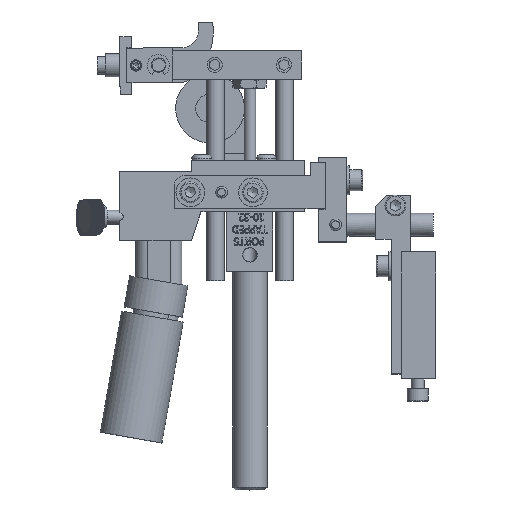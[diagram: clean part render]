
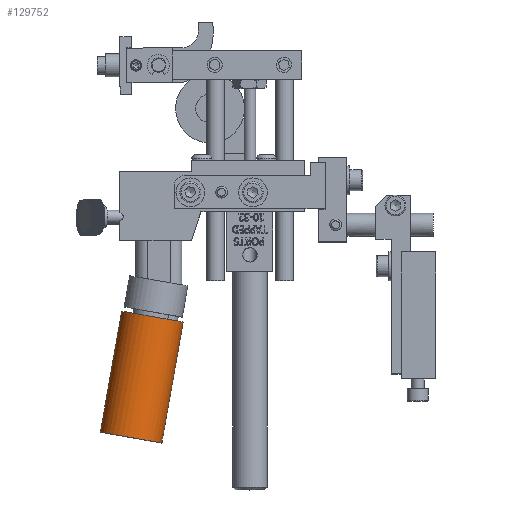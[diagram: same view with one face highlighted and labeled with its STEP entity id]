
A CAD part, top view. The second image highlights one B-rep face of the part: STEP entity #129752.
In plain terms, the highlighted cylindrical face has radius 8.636 mm (diameter 17.272 mm), a full revolution.
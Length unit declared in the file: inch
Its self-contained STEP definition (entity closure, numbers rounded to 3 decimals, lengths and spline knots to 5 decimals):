
#129705=CARTESIAN_POINT('',(-0.93754,-4.07293,-0.55726));
#129706=VERTEX_POINT('',#129705);
#129707=CARTESIAN_POINT('',(-0.8449,-4.08927,-0.23053));
#129708=DIRECTION('',(-0.174,-0.985,0.));
#129709=DIRECTION('',(0.272,-0.048,0.961));
#129710=AXIS2_PLACEMENT_3D('',#129707,#129708,#129709);
#129711=CIRCLE('',#129710,0.34);
#129712=EDGE_CURVE('',#129706,#129706,#129711,.T.);
#129733=CARTESIAN_POINT('',(-0.8449,-4.08927,-0.23053));
#129734=DIRECTION('',(0.174,0.985,0.));
#129735=DIRECTION('',(0.272,-0.048,0.961));
#129736=AXIS2_PLACEMENT_3D('',#129733,#129734,#129735);
#129737=CYLINDRICAL_SURFACE('',#129736,0.34);
#129738=CARTESIAN_POINT('',(-0.70572,-2.75821,-0.55725));
#129739=VERTEX_POINT('',#129738);
#129740=CARTESIAN_POINT('',(-0.61308,-2.77455,-0.23053));
#129741=DIRECTION('',(-0.174,-0.985,0.));
#129742=DIRECTION('',(0.272,-0.048,0.961));
#129743=AXIS2_PLACEMENT_3D('',#129740,#129741,#129742);
#129744=CIRCLE('',#129743,0.34);
#129745=EDGE_CURVE('',#129739,#129739,#129744,.T.);
#129746=ORIENTED_EDGE('',*,*,#129745,.T.);
#129747=EDGE_LOOP('',(#129746));
#129748=FACE_OUTER_BOUND('',#129747,.T.);
#129749=ORIENTED_EDGE('',*,*,#129712,.F.);
#129750=EDGE_LOOP('',(#129749));
#129751=FACE_BOUND('',#129750,.T.);
#129752=ADVANCED_FACE('',(#129748,#129751),#129737,.T.);
